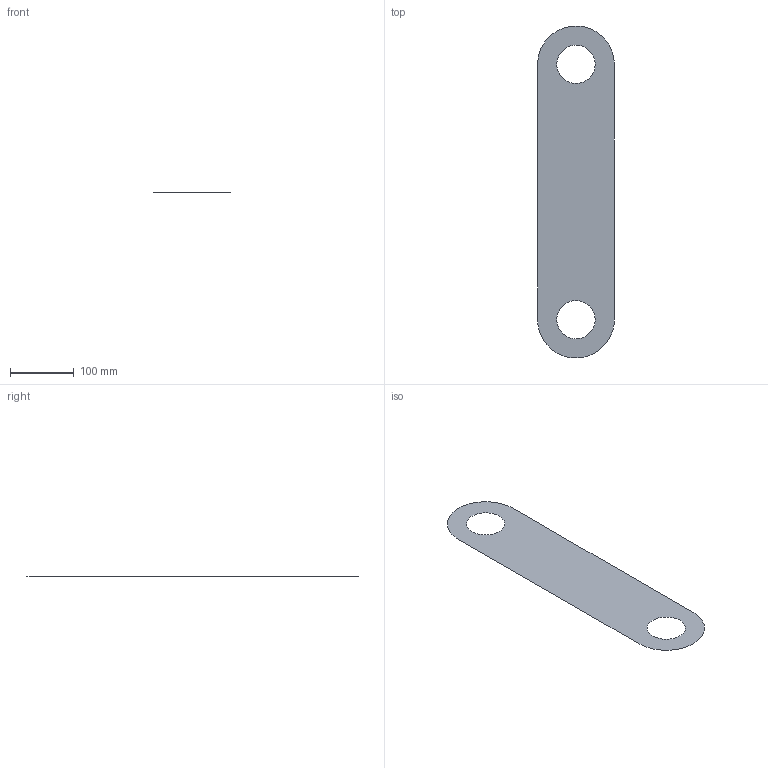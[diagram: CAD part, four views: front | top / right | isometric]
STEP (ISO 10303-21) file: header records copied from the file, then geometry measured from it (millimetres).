
FILE_DESCRIPTION(/* description */ (''),/* implementation_level */ '2;1');
FILE_NAME(/* name */ 'LINKPL~1',/* time_stamp */ '2015-07-17T02:17:17-04:00',/* author */ (''),/* organization */ (''),/* preprocessor_version */ 'ST-DEVELOPER v15',/* originating_system */ '',/* authorisation */ '');
FILE_SCHEMA (('CONFIG_CONTROL_DESIGN'));
Length unit declared in the file: millimetre
Products named in the file (1): Document
Bounding box: 120 x 519.96 x 0 mm (x, y, z)
Surface area: 53818.1 mm2 (no closed solid volume)
Topology: 0 solids, 1 shells, 1 faces, 3 edges, 3 vertices
Faces by surface type: plane 1
Entity records: 148 total; most frequent: CARTESIAN_POINT 37, ORGANIZATION 7, PERSON_AND_ORGANIZATION 7, LOCAL_TIME 5, CALENDAR_DATE 5, DATE_AND_TIME 5, PERSON_AND_ORGANIZATION_ROLE 5, APPLIED_PERSON_AND_ORGANIZATION_ASSIGNMENT 5
